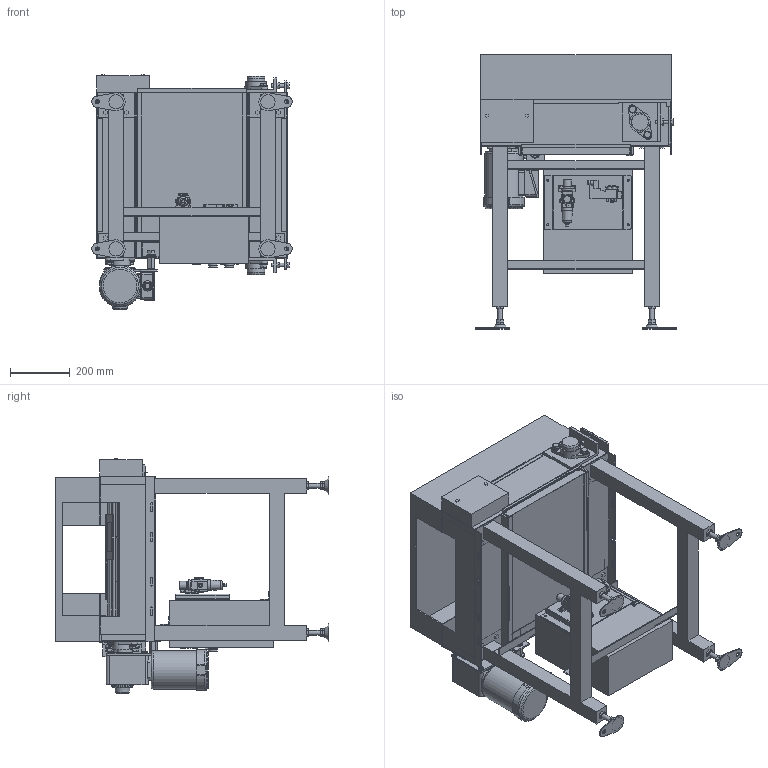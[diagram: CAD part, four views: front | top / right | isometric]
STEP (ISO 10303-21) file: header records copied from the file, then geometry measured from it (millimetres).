
FILE_DESCRIPTION (( 'STEP AP214' ), '1' );
FILE_NAME ('SLS-H-2-150-150-L.STEP', '2023-04-20T04:38:28', ( '' ), ( '' ), 'SwSTEP 2.0', 'SolidWorks 2017', '' );
FILE_SCHEMA (( 'AUTOMOTIVE_DESIGN' ));
Length unit declared in the file: millimetre
Products named in the file (1): SLS-H-2-150-150-L
Bounding box: 674 x 920.6 x 789.5 mm (x, y, z)
Volume: 43311422.9 mm3; surface area: 6754865.6 mm2
Topology: 81 solids, 81 shells, 2778 faces, 7229 edges, 4699 vertices
Faces by surface type: plane 2148, cylinder 458, cone 142, bspline 15, torus 11, sphere 4
Full cylindrical faces by diameter (mm): 2.459 x2, 3.2 x4, 4.386 x2, 6 x3, 6.5 x2, 6.8 x3, 7 x4, 7.9 x4, 8 x6, 8.376 x4, 8.5 x6, 9 x1, 9.7 x3, 9.9 x1, 10 x1, 10.5 x4, 11 x5, 11.8 x4, 12 x2, 12.3 x1, 13 x8, 13.8 x1, 14 x10, 15 x1, 15.4 x1, 16 x16, 18 x1, 19 x1, 20 x1, 21 x6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
Entity records: 119573 total; most frequent: CARTESIAN_POINT 20561, ORIENTED_EDGE 13926, DIRECTION 13388, EDGE_CURVE 6963, LINE 5538, VECTOR 5538, VERTEX_POINT 4640, AXIS2_PLACEMENT_3D 3925
